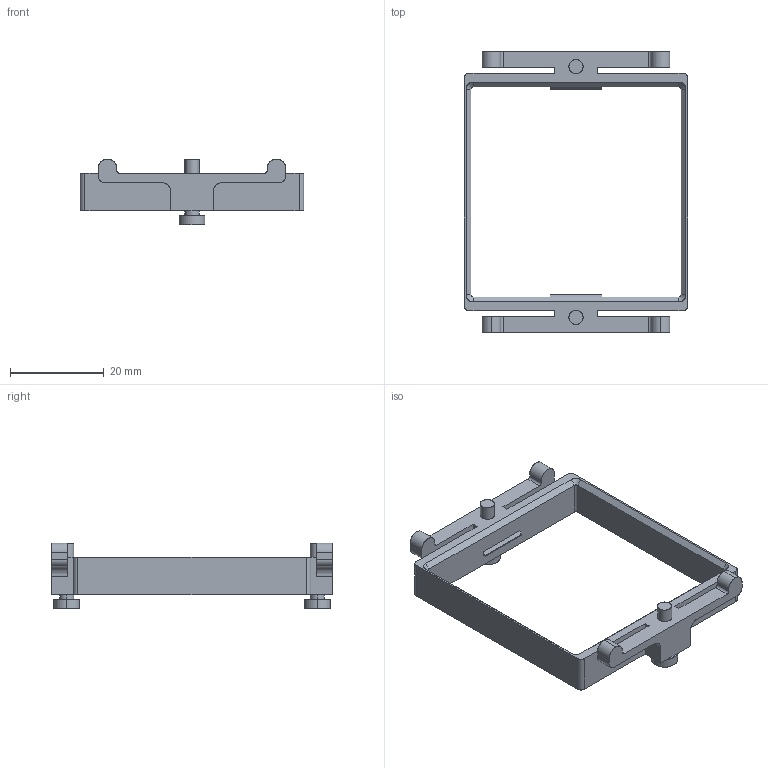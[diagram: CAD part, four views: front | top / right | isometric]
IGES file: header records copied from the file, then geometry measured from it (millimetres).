
Start section: SolidWorks IGES file using analytic representation for surfaces
Global section: file name: 取付枠_ACS_141024.IGS,15; native system: HSolidWorks 2022; preprocessor: SolidWorks 2022; author: kawanishi; date: 251224.160424; units: millimetre
Bounding box: 47.6 x 60 x 14 mm (x, y, z)
Surface area: 5033.8 mm2 (no closed solid volume)
Topology: 0 solids, 0 shells, 96 faces, 1208 edges, 1208 vertices
Faces by surface type: bspline 54, revolution 42
